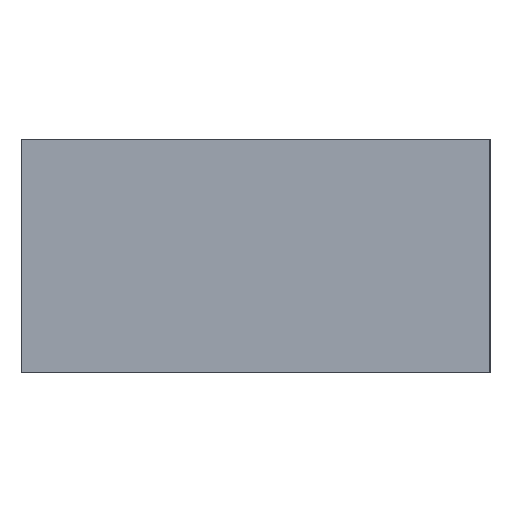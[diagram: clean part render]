
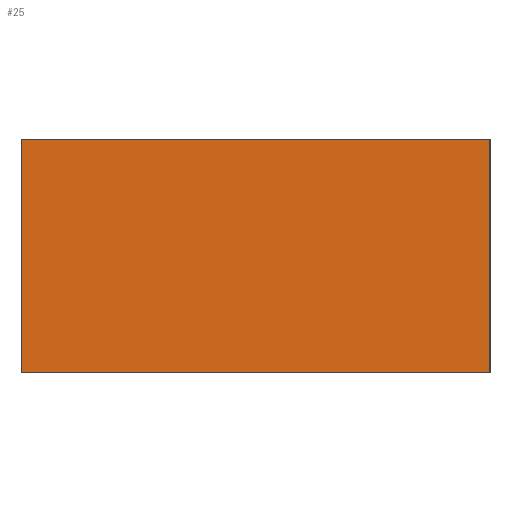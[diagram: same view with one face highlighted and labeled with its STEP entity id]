
A CAD part, left-side view. The second image highlights one B-rep face of the part: STEP entity #25.
In plain terms, the highlighted planar face has unit normal (-1, 0, 0).
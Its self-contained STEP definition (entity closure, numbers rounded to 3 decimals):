
#25=ADVANCED_FACE('',(#31),#183,.T.);
#31=FACE_OUTER_BOUND('',#37,.T.);
#37=EDGE_LOOP('',(#46,#47,#48,#49));
#46=ORIENTED_EDGE('',*,*,#126,.F.);
#47=ORIENTED_EDGE('',*,*,#130,.T.);
#48=ORIENTED_EDGE('',*,*,#131,.T.);
#49=ORIENTED_EDGE('',*,*,#132,.T.);
#66=PCURVE('',#182,#90);
#70=PCURVE('',#183,#94);
#71=PCURVE('',#183,#95);
#72=PCURVE('',#183,#96);
#73=PCURVE('',#183,#97);
#77=PCURVE('',#184,#101);
#79=PCURVE('',#185,#103);
#88=PCURVE('',#187,#112);
#90=DEFINITIONAL_REPRESENTATION('',(#139),#313);
#94=DEFINITIONAL_REPRESENTATION('',(#146),#313);
#95=DEFINITIONAL_REPRESENTATION('',(#148),#313);
#96=DEFINITIONAL_REPRESENTATION('',(#150),#313);
#97=DEFINITIONAL_REPRESENTATION('',(#152),#313);
#101=DEFINITIONAL_REPRESENTATION('',(#159),#313);
#103=DEFINITIONAL_REPRESENTATION('',(#161),#313);
#112=DEFINITIONAL_REPRESENTATION('',(#172),#313);
#114=SURFACE_CURVE('',#138,(#66,#70),.PCURVE_S1.);
#118=SURFACE_CURVE('',#147,(#71,#88),.PCURVE_S1.);
#119=SURFACE_CURVE('',#149,(#72,#77),.PCURVE_S1.);
#120=SURFACE_CURVE('',#151,(#73,#79),.PCURVE_S1.);
#126=EDGE_CURVE('',#174,#176,#114,.T.);
#130=EDGE_CURVE('',#174,#175,#118,.T.);
#131=EDGE_CURVE('',#175,#179,#119,.T.);
#132=EDGE_CURVE('',#179,#176,#120,.T.);
#138=B_SPLINE_CURVE_WITH_KNOTS('',1,(#240,#241),.UNSPECIFIED.,.F.,.F.,(2,
2),(-3280.,-3240.),.UNSPECIFIED.);
#139=B_SPLINE_CURVE_WITH_KNOTS('',1,(#242,#243),.UNSPECIFIED.,.F.,.F.,(2,
2),(-3280.,-3240.),.UNSPECIFIED.);
#146=B_SPLINE_CURVE_WITH_KNOTS('',1,(#256,#257),.UNSPECIFIED.,.F.,.F.,(2,
2),(-3280.,-3240.),.UNSPECIFIED.);
#147=B_SPLINE_CURVE_WITH_KNOTS('',1,(#258,#259),.UNSPECIFIED.,.F.,.F.,(2,
2),(0.,80.),.UNSPECIFIED.);
#148=B_SPLINE_CURVE_WITH_KNOTS('',1,(#260,#261),.UNSPECIFIED.,.F.,.F.,(2,
2),(0.,80.),.UNSPECIFIED.);
#149=B_SPLINE_CURVE_WITH_KNOTS('',1,(#262,#263),.UNSPECIFIED.,.F.,.F.,(2,
2),(-3280.,-3240.),.UNSPECIFIED.);
#150=B_SPLINE_CURVE_WITH_KNOTS('',1,(#264,#265),.UNSPECIFIED.,.F.,.F.,(2,
2),(-3280.,-3240.),.UNSPECIFIED.);
#151=B_SPLINE_CURVE_WITH_KNOTS('',1,(#266,#267),.UNSPECIFIED.,.F.,.F.,(2,
2),(-80.,0.),.UNSPECIFIED.);
#152=B_SPLINE_CURVE_WITH_KNOTS('',1,(#268,#269),.UNSPECIFIED.,.F.,.F.,(2,
2),(-80.,0.),.UNSPECIFIED.);
#159=B_SPLINE_CURVE_WITH_KNOTS('',1,(#282,#283),.UNSPECIFIED.,.F.,.F.,(2,
2),(-3280.,-3240.),.UNSPECIFIED.);
#161=B_SPLINE_CURVE_WITH_KNOTS('',1,(#286,#287),.UNSPECIFIED.,.F.,.F.,(2,
2),(-80.,0.),.UNSPECIFIED.);
#172=B_SPLINE_CURVE_WITH_KNOTS('',1,(#308,#309),.UNSPECIFIED.,.F.,.F.,(2,
2),(0.,80.),.UNSPECIFIED.);
#174=VERTEX_POINT('',#232);
#175=VERTEX_POINT('',#233);
#176=VERTEX_POINT('',#234);
#179=VERTEX_POINT('',#237);
#182=PLANE('',#208);
#183=PLANE('',#209);
#184=PLANE('',#210);
#185=PLANE('',#211);
#187=PLANE('',#213);
#208=AXIS2_PLACEMENT_3D('',#226,#217,$);
#209=AXIS2_PLACEMENT_3D('',#227,#218,$);
#210=AXIS2_PLACEMENT_3D('',#228,#219,$);
#211=AXIS2_PLACEMENT_3D('',#229,#220,$);
#213=AXIS2_PLACEMENT_3D('',#231,#222,$);
#217=DIRECTION('',(0.,0.,-1.));
#218=DIRECTION('',(-1.,0.,0.));
#219=DIRECTION('',(0.,0.,1.));
#220=DIRECTION('',(0.,1.,0.));
#222=DIRECTION('',(0.,-1.,0.));
#226=CARTESIAN_POINT('',(-810.,545.,160.));
#227=CARTESIAN_POINT('',(-810.,545.,160.));
#228=CARTESIAN_POINT('',(-810.,545.,180.));
#229=CARTESIAN_POINT('',(-810.,585.,160.));
#231=CARTESIAN_POINT('',(810.,545.,160.));
#232=CARTESIAN_POINT('',(-810.,545.,160.));
#233=CARTESIAN_POINT('',(-810.,545.,180.));
#234=CARTESIAN_POINT('',(-810.,585.,160.));
#237=CARTESIAN_POINT('',(-810.,585.,180.));
#240=CARTESIAN_POINT('',(-810.,545.,160.));
#241=CARTESIAN_POINT('',(-810.,585.,160.));
#242=CARTESIAN_POINT('',(0.,0.));
#243=CARTESIAN_POINT('',(40.,0.));
#256=CARTESIAN_POINT('',(0.,-3280.));
#257=CARTESIAN_POINT('',(0.,-3240.));
#258=CARTESIAN_POINT('',(-810.,545.,160.));
#259=CARTESIAN_POINT('',(-810.,545.,180.));
#260=CARTESIAN_POINT('',(0.,-3280.));
#261=CARTESIAN_POINT('',(80.,-3280.));
#262=CARTESIAN_POINT('',(-810.,545.,180.));
#263=CARTESIAN_POINT('',(-810.,585.,180.));
#264=CARTESIAN_POINT('',(80.,-3280.));
#265=CARTESIAN_POINT('',(80.,-3240.));
#266=CARTESIAN_POINT('',(-810.,585.,180.));
#267=CARTESIAN_POINT('',(-810.,585.,160.));
#268=CARTESIAN_POINT('',(80.,-3240.));
#269=CARTESIAN_POINT('',(0.,-3240.));
#282=CARTESIAN_POINT('',(0.,0.));
#283=CARTESIAN_POINT('',(0.,40.));
#286=CARTESIAN_POINT('',(80.,-3240.));
#287=CARTESIAN_POINT('',(0.,-3240.));
#308=CARTESIAN_POINT('',(0.,0.));
#309=CARTESIAN_POINT('',(80.,0.));
#313=(
GEOMETRIC_REPRESENTATION_CONTEXT(2)
PARAMETRIC_REPRESENTATION_CONTEXT()
REPRESENTATION_CONTEXT('pspace','')
);
